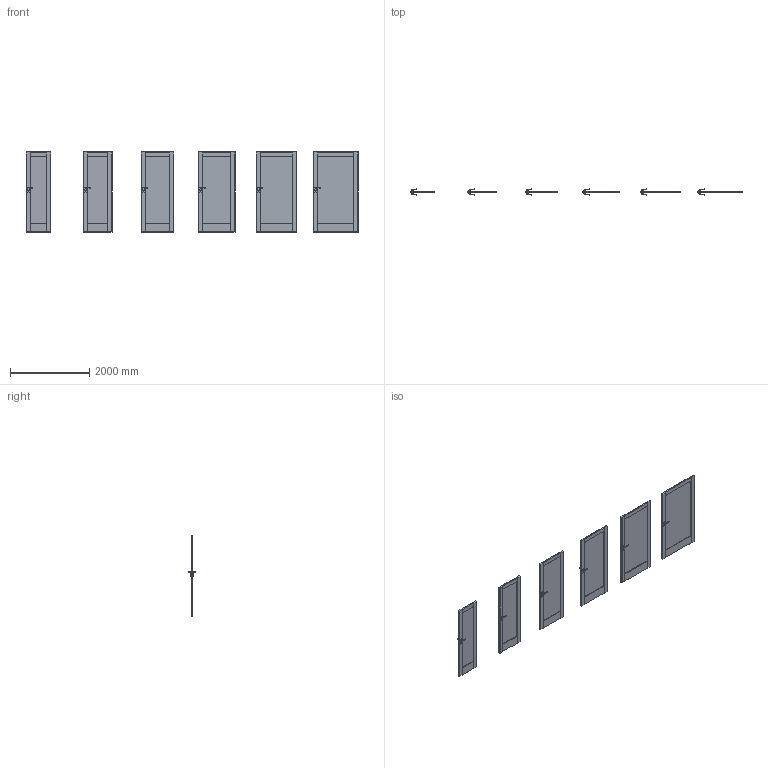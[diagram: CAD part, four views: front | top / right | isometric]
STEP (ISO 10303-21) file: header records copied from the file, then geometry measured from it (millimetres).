
FILE_DESCRIPTION(/* description */ (''),/* implementation_level */ '2;1');
FILE_NAME(/* name */ '049795_A_2-Skrzydło Verte Home model B.5_ polska norma _PN__ bezprzylgowe..stp',/* time_stamp */ '2024-03-25T14:45:04+01:00',/* author */ (''),/* organization */ (''),/* preprocessor_version */ 'ST-DEVELOPER v16',/* originating_system */ 'SIEMENS PLM Software NX 11.0',/* authorisation */ '');
FILE_SCHEMA (('AUTOMOTIVE_DESIGN { 1 0 10303 214 3 1 1 1 }'));
Length unit declared in the file: millimetre
Products named in the file (1): bkni57D4FDF5w81y
Bounding box: 8368 x 153.27 x 2017.01 mm (x, y, z)
Volume: 173179242.6 mm3; surface area: 23609427.9 mm2
Topology: 30 solids, 30 shells, 1332 faces, 3288 edges, 1896 vertices
Faces by surface type: plane 588, cylinder 384, bspline 192, sphere 168
Entity records: 44796 total; most frequent: CARTESIAN_POINT 14773, ORIENTED_EDGE 6240, DIRECTION 6050, EDGE_CURVE 3120, AXIS2_PLACEMENT_3D 2149, VERTEX_POINT 1896, LINE 1752, VECTOR 1752
